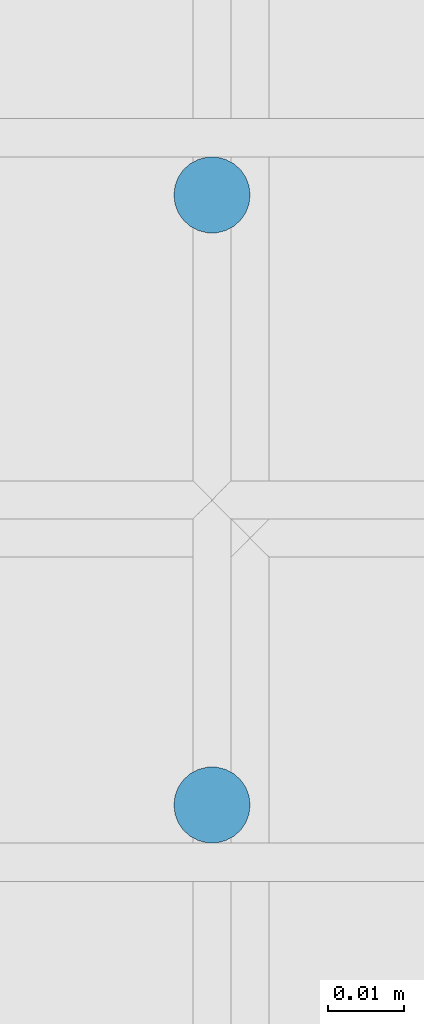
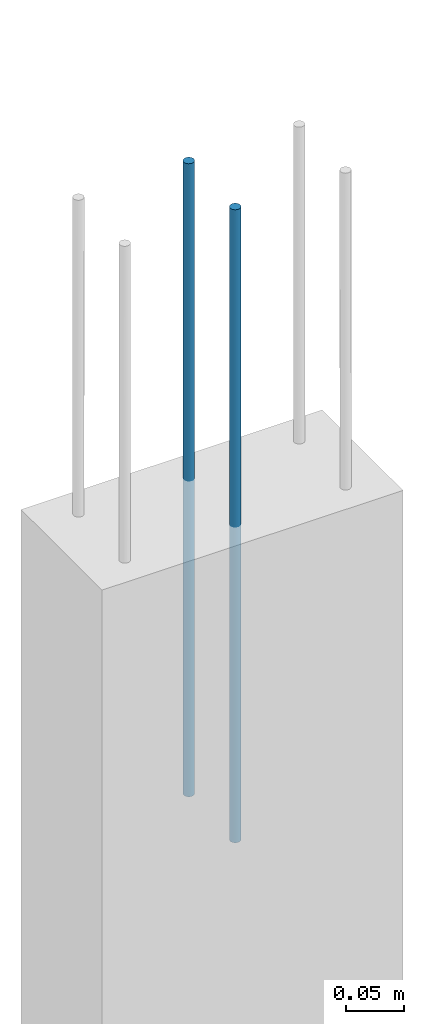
# One storey, part 88 of 119: 2 reinforcing bars.
"""IFC4 building model written with IfcOpenShell, lengths in centimetres."""

from ifc_helpers import new_model, entity, si_unit, derived_unit, frame, origin_with_axes, place, context, project, spatial, element, save


model = new_model("IFC4")

# Units and contexts
model_context = context("Model", 3, precision=1e-05, world=origin_with_axes(), identifier="Body")
ifc_project = project(units=[si_unit("LENGTHUNIT", "METRE", prefix="CENTI"), si_unit("VOLUMEUNIT", "CUBIC_METRE"), si_unit("AREAUNIT", "SQUARE_METRE"), si_unit("POWERUNIT", "WATT"), si_unit("LUMINOUSFLUXUNIT", "LUMEN"), si_unit("ELECTRICCURRENTUNIT", "AMPERE"), si_unit("PRESSUREUNIT", "PASCAL", prefix="KILO"), si_unit("MASSUNIT", "GRAM", prefix="KILO"), si_unit("PLANEANGLEUNIT", "RADIAN"), derived_unit("VOLUMETRICFLOWRATEUNIT", [(si_unit("LENGTHUNIT", "METRE"), 3), (si_unit("TIMEUNIT", "SECOND"), -1)])], contexts=[model_context])

# Site, building, storey
site_placement = place(None, frame((-4000.0, 0.0, 0.0), z_axis=(0.0, 0.0, 1.0), x_axis=(1.0, 0.0, 0.0)))
site = spatial("IfcSite", under=ifc_project, at=site_placement, Name="PADRÃO")
building_placement = place(site_placement, frame((0.0, 0.0, -14.0)))
building = spatial("IfcBuilding", under=site, at=building_placement, Name="CRECHE PRÉ-ESCOLA TIPO 2")
storey_placement = place(building_placement, origin_with_axes())
storey = spatial("IfcBuildingStorey", under=building, at=storey_placement, Name="FUNDAÇÃO", CompositionType="ELEMENT", Elevation=-14.0)

# Reinforcing bars
for number, where, z_axis, x_axis, name in (
    (1, (1109.72, 3072.5, 33.3573001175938), (0.0, 0.0, 1.0), (1.0, 0.0, 0.0), "P58 - Longitudinal"),
    (2, (1109.72, 3080.5, 33.3573001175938), (0.0, 0.0, 1.0), (1.0, 0.0, 0.0), "P58 - Longitudinal"),
):
    element("IfcReinforcingBar", number, at=place(storey_placement, frame(where, z_axis=z_axis, x_axis=x_axis)), inside=storey, Name=name, BarLength=0.0, CrossSectionArea=7.853981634e-05, NominalDiameter=1.0, PredefinedType="MAIN", context=model_context, shape_type="AdvancedSweptSolid", body=[
        entity("IfcSweptDiskSolid", entity("IfcCompositeCurve", [entity("IfcCompositeCurveSegment", "CONTINUOUS", True, entity("IfcPolyline", [entity("IfcCartesianPoint", [0.0, 0.0, -66.7146002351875]), entity("IfcCartesianPoint", [0.0, 0.0, 0.0])]))], False), 0.5),
    ])

save(model, "model.ifc")
